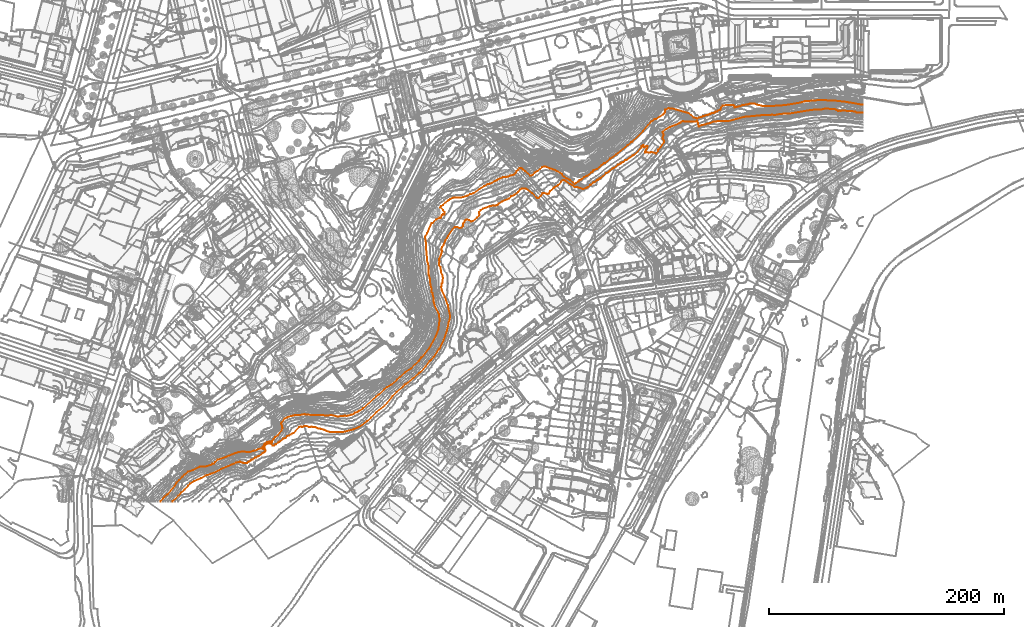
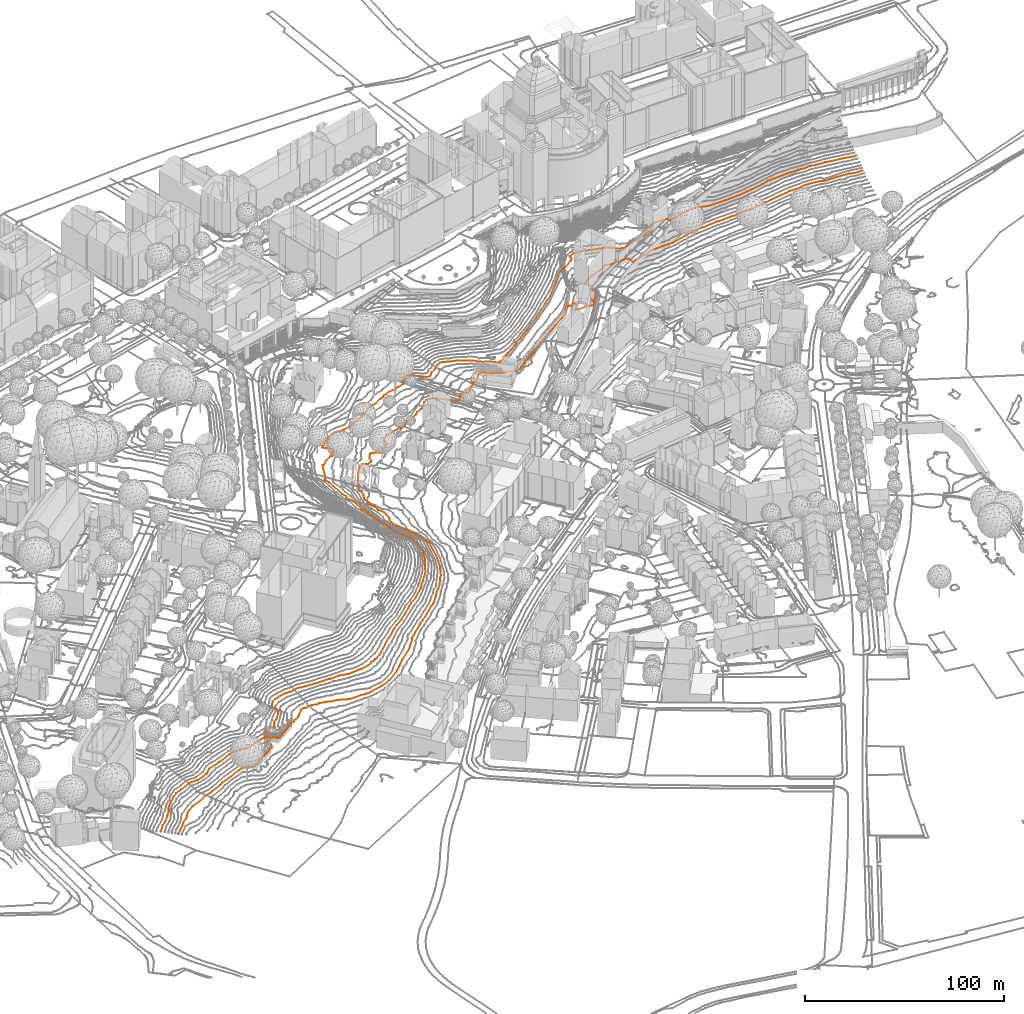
# Not in any storey, part 145 of 494: 2 proxies.
"""IFC2X3 model written with IfcOpenShell, lengths in metres."""

from ifc_helpers import new_model, entity, si_unit, frame, origin_with_axes, place, context, subcontext, project, element, save


model = new_model("IFC2X3")

# Units and contexts
model_context = context("Model", 3, precision=1e-05, world=origin_with_axes())
body_context = subcontext(model_context, "Body", "Model", "MODEL_VIEW")
ifc_project = project(units=[si_unit("AREAUNIT", "SQUARE_METRE"), si_unit("LENGTHUNIT", "METRE")], contexts=[model_context])

# Proxies
proxy_1_placement = place(None, frame((100.4548748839, -1.3292839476, 513.0), z_axis=(0.0, 0.0, 1.0), x_axis=(1.0, 0.0, 0.0)))
element("IfcBuildingElementProxy", 1, at=proxy_1_placement, Name="Contour Line 513.0 m", ObjectType="NOTDEFINED", context=body_context, shape_type="GeometricCurveSet", body=[
    entity("IfcGeometricCurveSet", [entity("IfcPolyline", [entity("IfcCartesianPoint", [587.7228571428, 331.0606864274, 0.0]), entity("IfcCartesianPoint", [582.2228571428, 331.3515357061, 0.0]), entity("IfcCartesianPoint", [580.2228571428, 332.0839145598, 0.0]), entity("IfcCartesianPoint", [576.2228571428, 332.500591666, 0.0]), entity("IfcCartesianPoint", [569.2228571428, 332.7624394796, 0.0]), entity("IfcCartesianPoint", [568.2228571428, 332.4714629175, 0.0]), entity("IfcCartesianPoint", [567.2228571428, 332.7551997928, 0.0]), entity("IfcCartesianPoint", [566.2228571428, 332.4298441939, 0.0]), entity("IfcCartesianPoint", [565.2228571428, 333.2461895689, 0.0]), entity("IfcCartesianPoint", [563.2228571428, 334.026642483, 0.0]), entity("IfcCartesianPoint", [557.2228571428, 334.4316708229, 0.0]), entity("IfcCartesianPoint", [555.2228571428, 334.4908560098, 0.0]), entity("IfcCartesianPoint", [552.2228571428, 333.8805276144, 0.0]), entity("IfcCartesianPoint", [546.2228571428, 333.8555910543, 0.0]), entity("IfcCartesianPoint", [544.2228571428, 333.3332645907, 0.0]), entity("IfcCartesianPoint", [540.2228571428, 332.9109265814, 0.0]), entity("IfcCartesianPoint", [524.2228571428, 330.1685464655, 0.0]), entity("IfcCartesianPoint", [518.2228571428, 330.075233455, 0.0]), entity("IfcCartesianPoint", [512.2228571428, 329.0989480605, 0.0]), entity("IfcCartesianPoint", [510.2228571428, 329.2772500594, 0.0]), entity("IfcCartesianPoint", [506.2228571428, 328.8846222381, 0.0]), entity("IfcCartesianPoint", [501.2228571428, 328.8622250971, 0.0]), entity("IfcCartesianPoint", [486.2228571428, 327.4997054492, 0.0]), entity("IfcCartesianPoint", [473.2228571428, 323.9270012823, 0.0]), entity("IfcCartesianPoint", [467.2228571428, 324.03418537, 0.0]), entity("IfcCartesianPoint", [460.2228571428, 323.5010606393, 0.0]), entity("IfcCartesianPoint", [457.2228571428, 322.0889014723, 0.0]), entity("IfcCartesianPoint", [455.2228571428, 321.8269098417, 0.0]), entity("IfcCartesianPoint", [453.2228571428, 321.0418527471, 0.0]), entity("IfcCartesianPoint", [449.2228571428, 320.2414619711, 0.0]), entity("IfcCartesianPoint", [448.2228571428, 319.4395784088, 0.0]), entity("IfcCartesianPoint", [447.5092816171, 319.5, 0.0]), entity("IfcCartesianPoint", [447.1765378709, 322.5, 0.0]), entity("IfcCartesianPoint", [446.2228571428, 323.7073365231, 0.0]), entity("IfcCartesianPoint", [436.2228571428, 323.2898890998, 0.0]), entity("IfcCartesianPoint", [434.2228571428, 323.828971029, 0.0]), entity("IfcCartesianPoint", [433.2228571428, 323.5408114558, 0.0]), entity("IfcCartesianPoint", [432.1641487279, 322.5, 0.0]), entity("IfcCartesianPoint", [431.2228571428, 322.0713012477, 0.0]), entity("IfcCartesianPoint", [423.2228571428, 318.9969743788, 0.0]), entity("IfcCartesianPoint", [420.2228571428, 317.3196943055, 0.0]), entity("IfcCartesianPoint", [417.2228571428, 315.1128770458, 0.0]), entity("IfcCartesianPoint", [416.787267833, 314.5, 0.0]), entity("IfcCartesianPoint", [417.891982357, 312.5, 0.0]), entity("IfcCartesianPoint", [416.9595395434, 309.5, 0.0]), entity("IfcCartesianPoint", [418.2228571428, 307.1888993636, 0.0]), entity("IfcCartesianPoint", [418.2228571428, 305.8498665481, 0.0]), entity("IfcCartesianPoint", [415.2228571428, 301.6534289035, 0.0]), entity("IfcCartesianPoint", [413.3349848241, 299.5, 0.0]), entity("IfcCartesianPoint", [413.2228571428, 298.4970927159, 0.0]), entity("IfcCartesianPoint", [411.2228571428, 296.4688830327, 0.0]), entity("IfcCartesianPoint", [407.2228571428, 297.5600000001, 0.0]), entity("IfcCartesianPoint", [406.2228571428, 297.1507557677, 0.0]), entity("IfcCartesianPoint", [403.2228571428, 297.400419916, 0.0]), entity("IfcCartesianPoint", [402.2228571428, 297.140943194, 0.0]), entity("IfcCartesianPoint", [402.0874488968, 297.5, 0.0]), entity("IfcCartesianPoint", [402.723149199, 299.5, 0.0]), entity("IfcCartesianPoint", [403.6220275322, 300.5, 0.0]), entity("IfcCartesianPoint", [404.3698724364, 302.5, 0.0]), entity("IfcCartesianPoint", [404.2228571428, 302.7438625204, 0.0]), entity("IfcCartesianPoint", [403.2228571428, 302.8202614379, 0.0]), entity("IfcCartesianPoint", [401.2228571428, 301.6720430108, 0.0]), entity("IfcCartesianPoint", [400.2603571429, 302.5, 0.0]), entity("IfcCartesianPoint", [400.7276190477, 303.5, 0.0]), entity("IfcCartesianPoint", [400.2228571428, 303.5233421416, 0.0]), entity("IfcCartesianPoint", [399.1808507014, 302.5, 0.0]), entity("IfcCartesianPoint", [399.197727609, 301.5, 0.0]), entity("IfcCartesianPoint", [392.2228571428, 294.8292837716, 0.0]), entity("IfcCartesianPoint", [391.2228571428, 294.5074796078, 0.0]), entity("IfcCartesianPoint", [386.2228571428, 290.8977299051, 0.0]), entity("IfcCartesianPoint", [385.2228571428, 290.5973175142, 0.0]), entity("IfcCartesianPoint", [383.2228571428, 288.9928495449, 0.0]), entity("IfcCartesianPoint", [382.2228571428, 288.6698204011, 0.0]), entity("IfcCartesianPoint", [381.2228571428, 287.7062757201, 0.0]), entity("IfcCartesianPoint", [379.2228571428, 286.6917988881, 0.0]), entity("IfcCartesianPoint", [375.2228571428, 283.8675443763, 0.0]), entity("IfcCartesianPoint", [374.2248368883, 283.5, 0.0]), entity("IfcCartesianPoint", [371.2228571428, 280.9723477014, 0.0]), entity("IfcCartesianPoint", [368.7092710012, 279.5, 0.0]), entity("IfcCartesianPoint", [364.2228571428, 275.4180696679, 0.0]), entity("IfcCartesianPoint", [363.2228571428, 274.963898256, 0.0]), entity("IfcCartesianPoint", [362.2228571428, 273.9412513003, 0.0]), entity("IfcCartesianPoint", [361.2228571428, 273.7723040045, 0.0]), entity("IfcCartesianPoint", [359.2228571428, 272.0180565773, 0.0]), entity("IfcCartesianPoint", [357.8038638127, 271.5, 0.0]), entity("IfcCartesianPoint", [356.2228571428, 269.8329003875, 0.0]), entity("IfcCartesianPoint", [355.3487166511, 269.5, 0.0]), entity("IfcCartesianPoint", [353.2228571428, 267.5849459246, 0.0]), entity("IfcCartesianPoint", [352.2228571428, 267.0798703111, 0.0]), entity("IfcCartesianPoint", [349.2228571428, 266.1193524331, 0.0]), entity("IfcCartesianPoint", [344.2228571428, 267.7658878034, 0.0]), entity("IfcCartesianPoint", [342.2228571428, 267.8673395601, 0.0]), entity("IfcCartesianPoint", [338.2228571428, 270.1991745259, 0.0]), entity("IfcCartesianPoint", [334.2228571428, 273.001993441, 0.0]), entity("IfcCartesianPoint", [333.2228571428, 273.5364498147, 0.0]), entity("IfcCartesianPoint", [331.9440382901, 273.5, 0.0]), entity("IfcCartesianPoint", [330.7034085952, 272.5, 0.0]), entity("IfcCartesianPoint", [328.2228571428, 269.2780710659, 0.0]), entity("IfcCartesianPoint", [325.2228571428, 267.8403083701, 0.0]), entity("IfcCartesianPoint", [324.2228571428, 266.7301282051, 0.0]), entity("IfcCartesianPoint", [321.2228571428, 264.5029749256, 0.0]), entity("IfcCartesianPoint", [320.2228571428, 262.1923473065, 0.0]), entity("IfcCartesianPoint", [319.2228571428, 261.8523048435, 0.0]), entity("IfcCartesianPoint", [316.2228571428, 262.5649019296, 0.0]), entity("IfcCartesianPoint", [314.8167208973, 262.5, 0.0]), entity("IfcCartesianPoint", [313.2228571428, 260.0645823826, 0.0]), entity("IfcCartesianPoint", [311.303439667, 258.5, 0.0]), entity("IfcCartesianPoint", [310.2228571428, 258.2769734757, 0.0]), entity("IfcCartesianPoint", [305.8247545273, 262.5, 0.0]), entity("IfcCartesianPoint", [301.2228571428, 266.0401188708, 0.0]), entity("IfcCartesianPoint", [300.2228571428, 266.592858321, 0.0]), entity("IfcCartesianPoint", [297.2228571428, 266.6892655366, 0.0]), entity("IfcCartesianPoint", [295.4886008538, 265.5, 0.0]), entity("IfcCartesianPoint", [294.0898400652, 263.5, 0.0]), entity("IfcCartesianPoint", [291.2228571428, 261.1785856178, 0.0]), entity("IfcCartesianPoint", [288.2228571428, 259.9265989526, 0.0]), entity("IfcCartesianPoint", [286.2228571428, 257.9736187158, 0.0]), entity("IfcCartesianPoint", [280.2026512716, 255.5, 0.0]), entity("IfcCartesianPoint", [277.4968767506, 253.5, 0.0]), entity("IfcCartesianPoint", [276.7559955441, 252.5, 0.0]), entity("IfcCartesianPoint", [276.2228571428, 252.2311598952, 0.0]), entity("IfcCartesianPoint", [273.2228571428, 252.1394723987, 0.0]), entity("IfcCartesianPoint", [270.2228571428, 251.4799072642, 0.0]), entity("IfcCartesianPoint", [264.1852322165, 249.5, 0.0]), entity("IfcCartesianPoint", [262.2228571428, 247.9898042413, 0.0]), entity("IfcCartesianPoint", [260.9598113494, 246.5, 0.0]), entity("IfcCartesianPoint", [260.9059235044, 245.5, 0.0]), entity("IfcCartesianPoint", [261.2415654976, 244.5, 0.0]), entity("IfcCartesianPoint", [260.8561813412, 243.5, 0.0]), entity("IfcCartesianPoint", [259.2228571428, 241.818501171, 0.0]), entity("IfcCartesianPoint", [255.2228571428, 238.682543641, 0.0]), entity("IfcCartesianPoint", [253.7863089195, 238.5, 0.0]), entity("IfcCartesianPoint", [252.348202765, 239.5, 0.0]), entity("IfcCartesianPoint", [250.2228571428, 240.1921529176, 0.0]), entity("IfcCartesianPoint", [249.2228571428, 239.7977473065, 0.0]), entity("IfcCartesianPoint", [248.3371266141, 238.5, 0.0]), entity("IfcCartesianPoint", [247.210646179, 236.5, 0.0]), entity("IfcCartesianPoint", [247.0201012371, 234.5, 0.0]), entity("IfcCartesianPoint", [246.0313465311, 233.5, 0.0]), entity("IfcCartesianPoint", [244.2228571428, 232.8176229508, 0.0]), entity("IfcCartesianPoint", [242.2228571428, 233.8995702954, 0.0]), entity("IfcCartesianPoint", [240.2228571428, 233.7523809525, 0.0]), entity("IfcCartesianPoint", [239.8694276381, 233.5, 0.0]), entity("IfcCartesianPoint", [238.0743400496, 231.5, 0.0]), entity("IfcCartesianPoint", [234.2228571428, 226.0086434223, 0.0]), entity("IfcCartesianPoint", [233.60930125, 224.5, 0.0]), entity("IfcCartesianPoint", [232.2228571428, 222.6045871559, 0.0]), entity("IfcCartesianPoint", [230.488415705, 218.5, 0.0]), entity("IfcCartesianPoint", [229.1102587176, 216.5, 0.0]), entity("IfcCartesianPoint", [228.853270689, 214.5, 0.0]), entity("IfcCartesianPoint", [229.2297881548, 213.5, 0.0]), entity("IfcCartesianPoint", [228.5451913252, 210.5, 0.0]), entity("IfcCartesianPoint", [226.8263369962, 206.5, 0.0]), entity("IfcCartesianPoint", [227.0167331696, 204.5, 0.0]), entity("IfcCartesianPoint", [226.6982805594, 202.5, 0.0]), entity("IfcCartesianPoint", [226.899588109, 201.5, 0.0]), entity("IfcCartesianPoint", [227.995991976, 199.5, 0.0]), entity("IfcCartesianPoint", [228.4999477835, 196.5, 0.0]), entity("IfcCartesianPoint", [228.3969242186, 195.5, 0.0]), entity("IfcCartesianPoint", [229.7893687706, 192.5, 0.0]), entity("IfcCartesianPoint", [230.0686018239, 190.5, 0.0]), entity("IfcCartesianPoint", [229.6537746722, 186.5, 0.0]), entity("IfcCartesianPoint", [229.1021465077, 185.5, 0.0]), entity("IfcCartesianPoint", [228.5752890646, 182.5, 0.0]), entity("IfcCartesianPoint", [229.1442008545, 179.5, 0.0]), entity("IfcCartesianPoint", [231.6585102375, 174.5, 0.0]), entity("IfcCartesianPoint", [234.2228571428, 167.4028761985, 0.0]), entity("IfcCartesianPoint", [236.3126984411, 157.5, 0.0]), entity("IfcCartesianPoint", [234.9320216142, 152.5, 0.0]), entity("IfcCartesianPoint", [233.4919934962, 145.5, 0.0]), entity("IfcCartesianPoint", [230.6442980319, 137.5, 0.0]), entity("IfcCartesianPoint", [227.2553497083, 130.5, 0.0]), entity("IfcCartesianPoint", [226.2228571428, 129.3355869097, 0.0]), entity("IfcCartesianPoint", [222.2228571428, 123.2040171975, 0.0]), entity("IfcCartesianPoint", [219.8585373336, 120.5, 0.0]), entity("IfcCartesianPoint", [218.6230164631, 119.5, 0.0]), entity("IfcCartesianPoint", [215.2228571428, 115.0468238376, 0.0]), entity("IfcCartesianPoint", [211.2228571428, 110.5013495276, 0.0]), entity("IfcCartesianPoint", [209.5799870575, 109.5, 0.0]), entity("IfcCartesianPoint", [204.2228571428, 104.6629049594, 0.0]), entity("IfcCartesianPoint", [199.1526793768, 100.5, 0.0]), entity("IfcCartesianPoint", [197.5228842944, 99.5, 0.0]), entity("IfcCartesianPoint", [196.2228571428, 97.9999979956, 0.0]), entity("IfcCartesianPoint", [190.7513662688, 93.5, 0.0]), entity("IfcCartesianPoint", [187.2228571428, 90.0783869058, 0.0]), entity("IfcCartesianPoint", [186.2693543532, 88.5, 0.0]), entity("IfcCartesianPoint", [180.2228571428, 81.6566030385, 0.0]), entity("IfcCartesianPoint", [173.7263684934, 76.5, 0.0]), entity("IfcCartesianPoint", [168.9425664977, 71.5, 0.0]), entity("IfcCartesianPoint", [165.589096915, 68.5, 0.0]), entity("IfcCartesianPoint", [158.2228571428, 63.3581917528, 0.0]), entity("IfcCartesianPoint", [154.2228571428, 61.6516502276, 0.0]), entity("IfcCartesianPoint", [144.2228571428, 59.1205097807, 0.0]), entity("IfcCartesianPoint", [140.2228571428, 59.4666173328, 0.0]), entity("IfcCartesianPoint", [134.2228571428, 59.2794272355, 0.0]), entity("IfcCartesianPoint", [131.2228571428, 60.0726548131, 0.0]), entity("IfcCartesianPoint", [129.2228571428, 61.0960665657, 0.0]), entity("IfcCartesianPoint", [126.2228571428, 62.0098889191, 0.0]), entity("IfcCartesianPoint", [124.2228571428, 62.2049026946, 0.0]), entity("IfcCartesianPoint", [121.2228571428, 63.334275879, 0.0]), entity("IfcCartesianPoint", [118.2228571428, 63.7526991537, 0.0]), entity("IfcCartesianPoint", [116.2228571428, 63.5720303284, 0.0]), entity("IfcCartesianPoint", [114.2228571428, 64.3263157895, 0.0]), entity("IfcCartesianPoint", [112.2228571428, 64.2554488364, 0.0]), entity("IfcCartesianPoint", [110.2228571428, 63.6524327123, 0.0]), entity("IfcCartesianPoint", [109.2228571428, 64.0983782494, 0.0]), entity("IfcCartesianPoint", [107.4999182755, 63.5, 0.0]), entity("IfcCartesianPoint", [102.9527108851, 58.5, 0.0]), entity("IfcCartesianPoint", [100.2228571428, 57.3411095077, 0.0]), entity("IfcCartesianPoint", [99.2228571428, 56.4060747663, 0.0]), entity("IfcCartesianPoint", [97.2228571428, 55.7495163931, 0.0]), entity("IfcCartesianPoint", [96.2228571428, 54.1855553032, 0.0]), entity("IfcCartesianPoint", [94.2228571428, 53.6169762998, 0.0]), entity("IfcCartesianPoint", [91.2228571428, 51.1122932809, 0.0]), entity("IfcCartesianPoint", [89.7861263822, 50.5, 0.0]), entity("IfcCartesianPoint", [88.2228571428, 48.9005371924, 0.0]), entity("IfcCartesianPoint", [87.1119071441, 48.5, 0.0]), entity("IfcCartesianPoint", [86.2228571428, 47.6547457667, 0.0]), entity("IfcCartesianPoint", [85.2228571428, 47.657884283, 0.0]), entity("IfcCartesianPoint", [83.2228571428, 49.5814169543, 0.0]), entity("IfcCartesianPoint", [80.7802511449, 49.5, 0.0]), entity("IfcCartesianPoint", [79.2228571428, 48.5421173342, 0.0]), entity("IfcCartesianPoint", [78.2228571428, 47.0672785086, 0.0]), entity("IfcCartesianPoint", [78.2228571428, 45.1914856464, 0.0]), entity("IfcCartesianPoint", [78.8003186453, 44.5, 0.0]), entity("IfcCartesianPoint", [78.9686481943, 43.5, 0.0]), entity("IfcCartesianPoint", [78.2228571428, 42.0775947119, 0.0]), entity("IfcCartesianPoint", [76.7505204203, 41.5, 0.0]), entity("IfcCartesianPoint", [73.2228571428, 38.7493119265, 0.0]), entity("IfcCartesianPoint", [72.2228571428, 38.6220442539, 0.0]), entity("IfcCartesianPoint", [71.2228571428, 37.7506989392, 0.0]), entity("IfcCartesianPoint", [70.2228571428, 37.5649878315, 0.0]), entity("IfcCartesianPoint", [68.2228571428, 35.9662539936, 0.0]), entity("IfcCartesianPoint", [67.2228571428, 35.7392532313, 0.0]), entity("IfcCartesianPoint", [66.2228571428, 34.8096783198, 0.0]), entity("IfcCartesianPoint", [65.2228571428, 34.1538196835, 0.0]), entity("IfcCartesianPoint", [64.2228571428, 33.9195407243, 0.0]), entity("IfcCartesianPoint", [63.2228571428, 33.079390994, 0.0]), entity("IfcCartesianPoint", [60.2228571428, 33.093074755, 0.0]), entity("IfcCartesianPoint", [57.2228571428, 33.9547120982, 0.0]), entity("IfcCartesianPoint", [54.2228571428, 33.3227676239, 0.0]), entity("IfcCartesianPoint", [41.2228571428, 27.9240382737, 0.0]), entity("IfcCartesianPoint", [39.2228571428, 26.5248396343, 0.0]), entity("IfcCartesianPoint", [33.2228571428, 23.9067730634, 0.0]), entity("IfcCartesianPoint", [29.2228571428, 22.5442833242, 0.0]), entity("IfcCartesianPoint", [28.2228571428, 22.4529298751, 0.0]), entity("IfcCartesianPoint", [24.2228571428, 19.9796578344, 0.0]), entity("IfcCartesianPoint", [18.2228571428, 17.6251201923, 0.0]), entity("IfcCartesianPoint", [14.9257400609, 15.5, 0.0]), entity("IfcCartesianPoint", [13.2228571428, 13.8744909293, 0.0]), entity("IfcCartesianPoint", [10.2228571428, 10.1924398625, 0.0]), entity("IfcCartesianPoint", [7.2228571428, 7.8849687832, 0.0]), entity("IfcCartesianPoint", [5.2228571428, 5.4335488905, 0.0]), entity("IfcCartesianPoint", [0.0, 0.5, 0.0]), entity("IfcCartesianPoint", [0.0, 0.0, 0.0])])]),
])
proxy_2_placement = place(None, frame((90.07878512, -1.3292839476, 518.0), z_axis=(0.0, 0.0, 1.0), x_axis=(1.0, 0.0, 0.0)))
element("IfcBuildingElementProxy", 2, at=proxy_2_placement, Name="Contour Line 518.0 m", ObjectType="NOTDEFINED", context=body_context, shape_type="GeometricCurveSet", body=[
    entity("IfcGeometricCurveSet", [entity("IfcPolyline", [entity("IfcCartesianPoint", [598.0989469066, 337.7987259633, 0.0]), entity("IfcCartesianPoint", [594.5989469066, 338.1761970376, 0.0]), entity("IfcCartesianPoint", [589.5989469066, 339.2955058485, 0.0]), entity("IfcCartesianPoint", [584.5989469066, 339.8848297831, 0.0]), entity("IfcCartesianPoint", [581.5989469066, 340.5480820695, 0.0]), entity("IfcCartesianPoint", [576.5989469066, 340.8763877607, 0.0]), entity("IfcCartesianPoint", [572.5989469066, 341.5640208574, 0.0]), entity("IfcCartesianPoint", [569.5989469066, 341.1814372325, 0.0]), entity("IfcCartesianPoint", [566.5989469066, 341.602771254, 0.0]), entity("IfcCartesianPoint", [560.5989469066, 341.7292691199, 0.0]), entity("IfcCartesianPoint", [548.5989469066, 340.8334696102, 0.0]), entity("IfcCartesianPoint", [544.5989469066, 339.7088788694, 0.0]), entity("IfcCartesianPoint", [534.5989469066, 337.9540042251, 0.0]), entity("IfcCartesianPoint", [530.5989469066, 337.4135178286, 0.0]), entity("IfcCartesianPoint", [521.5989469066, 336.7975986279, 0.0]), entity("IfcCartesianPoint", [512.5989469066, 336.7176531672, 0.0]), entity("IfcCartesianPoint", [507.5989469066, 337.8090787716, 0.0]), entity("IfcCartesianPoint", [505.5989469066, 338.6604146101, 0.0]), entity("IfcCartesianPoint", [501.5989469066, 338.6940985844, 0.0]), entity("IfcCartesianPoint", [500.5989469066, 338.1900169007, 0.0]), entity("IfcCartesianPoint", [495.5989469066, 337.4973029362, 0.0]), entity("IfcCartesianPoint", [491.5989469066, 336.1520078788, 0.0]), entity("IfcCartesianPoint", [488.5989469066, 335.4880412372, 0.0]), entity("IfcCartesianPoint", [488.4079399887, 336.5, 0.0]), entity("IfcCartesianPoint", [487.6340771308, 337.5, 0.0]), entity("IfcCartesianPoint", [481.5989469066, 337.5847863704, 0.0]), entity("IfcCartesianPoint", [478.5989469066, 336.9501153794, 0.0]), entity("IfcCartesianPoint", [477.1160336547, 335.5, 0.0]), entity("IfcCartesianPoint", [476.488196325, 333.5, 0.0]), entity("IfcCartesianPoint", [474.5989469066, 332.8249429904, 0.0]), entity("IfcCartesianPoint", [473.5989469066, 332.1126550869, 0.0]), entity("IfcCartesianPoint", [472.5989469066, 332.0041236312, 0.0]), entity("IfcCartesianPoint", [471.5989469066, 331.1072235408, 0.0]), entity("IfcCartesianPoint", [470.5989469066, 330.8084406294, 0.0]), entity("IfcCartesianPoint", [469.5989469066, 330.8735779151, 0.0]), entity("IfcCartesianPoint", [468.5989469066, 330.1313146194, 0.0]), entity("IfcCartesianPoint", [467.5989469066, 329.999042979, 0.0]), entity("IfcCartesianPoint", [466.5989469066, 329.3257722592, 0.0]), entity("IfcCartesianPoint", [463.5989469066, 328.7776303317, 0.0]), entity("IfcCartesianPoint", [462.5989469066, 328.1950778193, 0.0]), entity("IfcCartesianPoint", [461.5989469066, 328.0161042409, 0.0]), entity("IfcCartesianPoint", [460.5989469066, 327.2745449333, 0.0]), entity("IfcCartesianPoint", [458.5989469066, 327.0439691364, 0.0]), entity("IfcCartesianPoint", [456.5989469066, 326.1960440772, 0.0]), entity("IfcCartesianPoint", [453.5989469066, 327.0799948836, 0.0]), entity("IfcCartesianPoint", [449.5989469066, 330.5739052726, 0.0]), entity("IfcCartesianPoint", [436.0522008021, 334.5, 0.0]), entity("IfcCartesianPoint", [433.5989469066, 334.4998156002, 0.0]), entity("IfcCartesianPoint", [432.5989469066, 334.8919863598, 0.0]), entity("IfcCartesianPoint", [429.3657176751, 333.5, 0.0]), entity("IfcCartesianPoint", [429.256516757, 331.5, 0.0]), entity("IfcCartesianPoint", [428.6710450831, 330.5, 0.0]), entity("IfcCartesianPoint", [427.558922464, 329.5, 0.0]), entity("IfcCartesianPoint", [421.5989469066, 325.5384030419, 0.0]), entity("IfcCartesianPoint", [420.5989469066, 325.5121522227, 0.0]), entity("IfcCartesianPoint", [417.5989469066, 323.5786500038, 0.0]), entity("IfcCartesianPoint", [410.5650843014, 315.5, 0.0]), entity("IfcCartesianPoint", [401.5989469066, 306.2939578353, 0.0]), entity("IfcCartesianPoint", [400.5989469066, 306.0407735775, 0.0]), entity("IfcCartesianPoint", [397.5989469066, 303.3111891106, 0.0]), entity("IfcCartesianPoint", [387.9213918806, 295.5, 0.0]), entity("IfcCartesianPoint", [382.5989469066, 291.8405005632, 0.0]), entity("IfcCartesianPoint", [378.5989469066, 288.1840479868, 0.0]), entity("IfcCartesianPoint", [377.5989469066, 287.9835615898, 0.0]), entity("IfcCartesianPoint", [375.5989469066, 286.6173179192, 0.0]), entity("IfcCartesianPoint", [371.5989469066, 283.2829205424, 0.0]), entity("IfcCartesianPoint", [368.5989469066, 282.0763373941, 0.0]), entity("IfcCartesianPoint", [368.0310319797, 281.5, 0.0]), entity("IfcCartesianPoint", [367.5989469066, 280.4542705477, 0.0]), entity("IfcCartesianPoint", [366.5989469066, 280.067224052, 0.0]), entity("IfcCartesianPoint", [363.5989469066, 277.5867951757, 0.0]), entity("IfcCartesianPoint", [362.5989469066, 277.3000709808, 0.0]), entity("IfcCartesianPoint", [360.5989469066, 276.1042909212, 0.0]), entity("IfcCartesianPoint", [358.5989469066, 274.4761866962, 0.0]), entity("IfcCartesianPoint", [356.5989469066, 273.7732742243, 0.0]), entity("IfcCartesianPoint", [355.8508825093, 272.5, 0.0]), entity("IfcCartesianPoint", [353.5989469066, 271.3278439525, 0.0]), entity("IfcCartesianPoint", [352.5989469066, 270.4172331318, 0.0]), entity("IfcCartesianPoint", [350.9782045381, 271.5, 0.0]), entity("IfcCartesianPoint", [348.5989469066, 273.8817541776, 0.0]), entity("IfcCartesianPoint", [345.5989469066, 275.1183927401, 0.0]), entity("IfcCartesianPoint", [343.5248309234, 276.5, 0.0]), entity("IfcCartesianPoint", [341.5989469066, 278.8497674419, 0.0]), entity("IfcCartesianPoint", [337.1784014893, 281.5, 0.0]), entity("IfcCartesianPoint", [334.5989469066, 282.7189294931, 0.0]), entity("IfcCartesianPoint", [331.5989469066, 283.5799496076, 0.0]), entity("IfcCartesianPoint", [327.5989469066, 285.2847244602, 0.0]), entity("IfcCartesianPoint", [326.5989469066, 285.3186405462, 0.0]), entity("IfcCartesianPoint", [324.5989469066, 284.6022092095, 0.0]), entity("IfcCartesianPoint", [321.1432691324, 281.5, 0.0]), entity("IfcCartesianPoint", [318.5989469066, 280.2309795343, 0.0]), entity("IfcCartesianPoint", [316.5989469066, 277.8826492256, 0.0]), entity("IfcCartesianPoint", [315.5989469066, 277.5988854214, 0.0]), entity("IfcCartesianPoint", [314.5989469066, 277.6856287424, 0.0]), entity("IfcCartesianPoint", [310.175433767, 281.5, 0.0]), entity("IfcCartesianPoint", [308.6053444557, 282.5, 0.0]), entity("IfcCartesianPoint", [307.5989469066, 283.7033301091, 0.0]), entity("IfcCartesianPoint", [306.5989469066, 284.0609375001, 0.0]), entity("IfcCartesianPoint", [305.5989469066, 283.8513274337, 0.0]), entity("IfcCartesianPoint", [304.5989469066, 282.6023200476, 0.0]), entity("IfcCartesianPoint", [303.0973494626, 281.5, 0.0]), entity("IfcCartesianPoint", [302.0420825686, 279.5, 0.0]), entity("IfcCartesianPoint", [301.1107812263, 278.5, 0.0]), entity("IfcCartesianPoint", [297.5989469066, 277.4494068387, 0.0]), entity("IfcCartesianPoint", [295.5989469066, 276.5083605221, 0.0]), entity("IfcCartesianPoint", [291.5989469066, 276.1280213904, 0.0]), entity("IfcCartesianPoint", [287.5989469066, 274.5083812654, 0.0]), entity("IfcCartesianPoint", [286.5989469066, 273.5791920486, 0.0]), entity("IfcCartesianPoint", [284.5989469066, 272.9308625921, 0.0]), entity("IfcCartesianPoint", [280.5989469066, 270.6216058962, 0.0]), entity("IfcCartesianPoint", [278.5989469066, 270.102956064, 0.0]), entity("IfcCartesianPoint", [275.3511946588, 268.5, 0.0]), entity("IfcCartesianPoint", [271.5989469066, 266.1802192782, 0.0]), entity("IfcCartesianPoint", [266.5989469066, 262.5172192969, 0.0]), entity("IfcCartesianPoint", [263.5989469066, 261.5986328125, 0.0]), entity("IfcCartesianPoint", [261.5989469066, 260.5002418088, 0.0]), entity("IfcCartesianPoint", [255.5989469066, 258.6710839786, 0.0]), entity("IfcCartesianPoint", [249.5989469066, 258.6769911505, 0.0]), entity("IfcCartesianPoint", [248.4446915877, 258.5, 0.0]), entity("IfcCartesianPoint", [246.4541679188, 257.5, 0.0]), entity("IfcCartesianPoint", [245.464503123, 256.5, 0.0]), entity("IfcCartesianPoint", [244.5989469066, 256.2981689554, 0.0]), entity("IfcCartesianPoint", [242.5989469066, 254.7698555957, 0.0]), entity("IfcCartesianPoint", [240.348674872, 252.5, 0.0]), entity("IfcCartesianPoint", [238.8764012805, 251.5, 0.0]), entity("IfcCartesianPoint", [238.1178304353, 250.5, 0.0]), entity("IfcCartesianPoint", [240.5989469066, 248.0933433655, 0.0]), entity("IfcCartesianPoint", [241.7078783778, 246.5, 0.0]), entity("IfcCartesianPoint", [241.6089056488, 244.5, 0.0]), entity("IfcCartesianPoint", [240.5989469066, 244.6477177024, 0.0]), entity("IfcCartesianPoint", [239.5989469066, 243.8821085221, 0.0]), entity("IfcCartesianPoint", [239.213762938, 243.5, 0.0]), entity("IfcCartesianPoint", [238.5989469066, 241.529330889, 0.0]), entity("IfcCartesianPoint", [237.5989469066, 241.6278409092, 0.0]), entity("IfcCartesianPoint", [234.5989469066, 240.2382052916, 0.0]), entity("IfcCartesianPoint", [231.5989469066, 237.1251217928, 0.0]), entity("IfcCartesianPoint", [230.5989469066, 237.2651970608, 0.0]), entity("IfcCartesianPoint", [227.0827314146, 228.5, 0.0]), entity("IfcCartesianPoint", [225.1315442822, 225.5, 0.0]), entity("IfcCartesianPoint", [225.786411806, 222.5, 0.0]), entity("IfcCartesianPoint", [226.5079606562, 210.5, 0.0]), entity("IfcCartesianPoint", [227.0254574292, 207.5, 0.0]), entity("IfcCartesianPoint", [226.8613157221, 205.5, 0.0]), entity("IfcCartesianPoint", [227.9328302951, 202.5, 0.0]), entity("IfcCartesianPoint", [228.4042833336, 193.5, 0.0]), entity("IfcCartesianPoint", [229.3228164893, 189.5, 0.0]), entity("IfcCartesianPoint", [229.2771786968, 187.5, 0.0]), entity("IfcCartesianPoint", [230.6622825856, 181.5, 0.0]), entity("IfcCartesianPoint", [230.9493332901, 178.5, 0.0]), entity("IfcCartesianPoint", [231.4531946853, 177.5, 0.0]), entity("IfcCartesianPoint", [232.4657482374, 173.5, 0.0]), entity("IfcCartesianPoint", [232.6273205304, 170.5, 0.0]), entity("IfcCartesianPoint", [233.2876640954, 167.5, 0.0]), entity("IfcCartesianPoint", [237.1013130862, 159.5, 0.0]), entity("IfcCartesianPoint", [237.5517627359, 154.5, 0.0]), entity("IfcCartesianPoint", [236.5989469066, 146.9226327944, 0.0]), entity("IfcCartesianPoint", [234.2240457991, 140.5, 0.0]), entity("IfcCartesianPoint", [228.5822369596, 130.5, 0.0]), entity("IfcCartesianPoint", [223.7756424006, 124.5, 0.0]), entity("IfcCartesianPoint", [221.7132820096, 122.5, 0.0]), entity("IfcCartesianPoint", [219.7277576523, 119.5, 0.0]), entity("IfcCartesianPoint", [213.1493920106, 113.5, 0.0]), entity("IfcCartesianPoint", [208.5989469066, 110.4261458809, 0.0]), entity("IfcCartesianPoint", [201.5989469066, 103.9964621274, 0.0]), entity("IfcCartesianPoint", [196.5989469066, 99.8331944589, 0.0]), entity("IfcCartesianPoint", [192.7882388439, 97.5, 0.0]), entity("IfcCartesianPoint", [190.1688842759, 95.5, 0.0]), entity("IfcCartesianPoint", [185.5989469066, 90.9901151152, 0.0]), entity("IfcCartesianPoint", [183.4535424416, 89.5, 0.0]), entity("IfcCartesianPoint", [172.671785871, 79.5, 0.0]), entity("IfcCartesianPoint", [169.5989469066, 77.4267712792, 0.0]), entity("IfcCartesianPoint", [168.5989469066, 77.1633850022, 0.0]), entity("IfcCartesianPoint", [167.5989469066, 76.3416036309, 0.0]), entity("IfcCartesianPoint", [165.5989469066, 75.762266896, 0.0]), entity("IfcCartesianPoint", [164.5989469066, 74.843060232, 0.0]), entity("IfcCartesianPoint", [162.5989469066, 73.9875298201, 0.0]), entity("IfcCartesianPoint", [158.5989469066, 73.0349693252, 0.0]), entity("IfcCartesianPoint", [156.5989469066, 73.1416865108, 0.0]), entity("IfcCartesianPoint", [150.5989469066, 72.4677105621, 0.0]), entity("IfcCartesianPoint", [145.5989469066, 73.6224452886, 0.0]), entity("IfcCartesianPoint", [140.5989469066, 73.3639182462, 0.0]), entity("IfcCartesianPoint", [138.5989469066, 73.6051145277, 0.0]), entity("IfcCartesianPoint", [131.5989469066, 73.5938001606, 0.0]), entity("IfcCartesianPoint", [123.5989469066, 74.1600744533, 0.0]), entity("IfcCartesianPoint", [122.5989469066, 74.5924349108, 0.0]), entity("IfcCartesianPoint", [117.5989469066, 73.6001747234, 0.0]), entity("IfcCartesianPoint", [114.5989469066, 73.623473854, 0.0]), entity("IfcCartesianPoint", [111.5989469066, 73.0892088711, 0.0]), entity("IfcCartesianPoint", [107.5989469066, 71.8092424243, 0.0]), entity("IfcCartesianPoint", [105.5989469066, 70.6379048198, 0.0]), entity("IfcCartesianPoint", [103.1585499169, 67.5, 0.0]), entity("IfcCartesianPoint", [102.8869153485, 66.5, 0.0]), entity("IfcCartesianPoint", [103.5807255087, 64.5, 0.0]), entity("IfcCartesianPoint", [103.8655242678, 62.5, 0.0]), entity("IfcCartesianPoint", [102.9456068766, 60.5, 0.0]), entity("IfcCartesianPoint", [99.6503785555, 56.5, 0.0]), entity("IfcCartesianPoint", [97.5989469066, 54.9111492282, 0.0]), entity("IfcCartesianPoint", [96.3717684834, 53.5, 0.0]), entity("IfcCartesianPoint", [95.2422909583, 51.5, 0.0]), entity("IfcCartesianPoint", [95.2197854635, 50.5, 0.0]), entity("IfcCartesianPoint", [94.5989469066, 50.3678114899, 0.0]), entity("IfcCartesianPoint", [93.5989469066, 51.2482170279, 0.0]), entity("IfcCartesianPoint", [92.5989469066, 51.1861155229, 0.0]), entity("IfcCartesianPoint", [90.5989469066, 50.6662941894, 0.0]), entity("IfcCartesianPoint", [89.0336598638, 49.5, 0.0]), entity("IfcCartesianPoint", [88.061866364, 48.5, 0.0]), entity("IfcCartesianPoint", [86.9432097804, 46.5, 0.0]), entity("IfcCartesianPoint", [87.5989469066, 45.7139532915, 0.0]), entity("IfcCartesianPoint", [87.5989469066, 44.8306419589, 0.0]), entity("IfcCartesianPoint", [86.5989469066, 45.247640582, 0.0]), entity("IfcCartesianPoint", [85.5989469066, 45.290618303, 0.0]), entity("IfcCartesianPoint", [83.5989469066, 44.9297886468, 0.0]), entity("IfcCartesianPoint", [80.6415968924, 43.5, 0.0]), entity("IfcCartesianPoint", [79.5989469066, 43.4158726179, 0.0]), entity("IfcCartesianPoint", [75.5989469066, 42.1840523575, 0.0]), entity("IfcCartesianPoint", [74.5989469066, 42.0897435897, 0.0]), entity("IfcCartesianPoint", [70.5989469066, 42.7935473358, 0.0]), entity("IfcCartesianPoint", [66.5989469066, 42.2507883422, 0.0]), entity("IfcCartesianPoint", [63.8652445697, 41.5, 0.0]), entity("IfcCartesianPoint", [55.5989469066, 38.0536904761, 0.0]), entity("IfcCartesianPoint", [48.5989469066, 35.6737356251, 0.0]), entity("IfcCartesianPoint", [46.5989469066, 33.8031914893, 0.0]), entity("IfcCartesianPoint", [45.5989469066, 32.4720284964, 0.0]), entity("IfcCartesianPoint", [44.5989469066, 32.3962872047, 0.0]), entity("IfcCartesianPoint", [42.5989469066, 31.2513495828, 0.0]), entity("IfcCartesianPoint", [38.5989469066, 30.0441984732, 0.0]), entity("IfcCartesianPoint", [33.5989469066, 29.8691052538, 0.0]), entity("IfcCartesianPoint", [27.5989469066, 26.9399957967, 0.0]), entity("IfcCartesianPoint", [23.5989469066, 25.5099571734, 0.0]), entity("IfcCartesianPoint", [20.5989469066, 23.2933966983, 0.0]), entity("IfcCartesianPoint", [19.0383137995, 21.5, 0.0]), entity("IfcCartesianPoint", [15.7231850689, 18.5, 0.0]), entity("IfcCartesianPoint", [13.9777846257, 16.5, 0.0]), entity("IfcCartesianPoint", [12.2277704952, 13.5, 0.0]), entity("IfcCartesianPoint", [9.5989469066, 10.2008826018, 0.0]), entity("IfcCartesianPoint", [5.5989469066, 5.8850305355, 0.0]), entity("IfcCartesianPoint", [3.5989469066, 4.4867857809, 0.0]), entity("IfcCartesianPoint", [2.218759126, 2.5, 0.0]), entity("IfcCartesianPoint", [0.0, 0.5, 0.0]), entity("IfcCartesianPoint", [0.0, 0.0, 0.0])])]),
])

save(model, "model.ifc")
